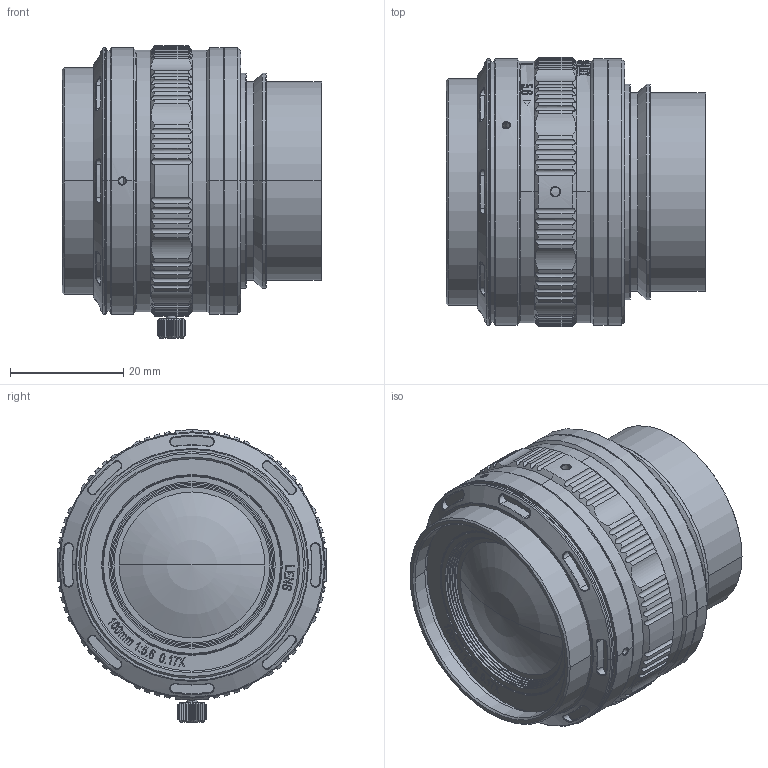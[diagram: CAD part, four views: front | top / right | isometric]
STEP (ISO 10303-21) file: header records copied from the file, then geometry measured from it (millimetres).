
FILE_DESCRIPTION((''),'2;1');
FILE_NAME('OPT-VCT100-5_6-0_17X-V1_0','2024-06-17T20:07:49',('admin'),(''),'CREO PARAMETRIC BY PTC INC, 2020354','CREO PARAMETRIC BY PTC INC, 2020354','');
FILE_SCHEMA(('AUTOMOTIVE_DESIGN { 1 0 10303 214 1 1 1 1 }'));
Length unit declared in the file: millimetre
Products named in the file (1): OPT-VCT100-5_6-0_17X-V1_0
Bounding box: 45.8 x 47.66 x 51.6 mm (x, y, z)
Volume: 54810.4 mm3; surface area: 21138 mm2
Topology: 1 solids, 15 shells, 1533 faces, 4248 edges, 2837 vertices
Faces by surface type: cylinder 440, plane 385, bspline 324, extrusion 208, cone 162, sphere 8, torus 6
Entity records: 63080 total; most frequent: CARTESIAN_POINT 26378, ORIENTED_EDGE 8426, DIRECTION 6083, EDGE_CURVE 4213, VERTEX_POINT 2837, AXIS2_PLACEMENT_3D 2088, VECTOR 1907, LINE 1699
